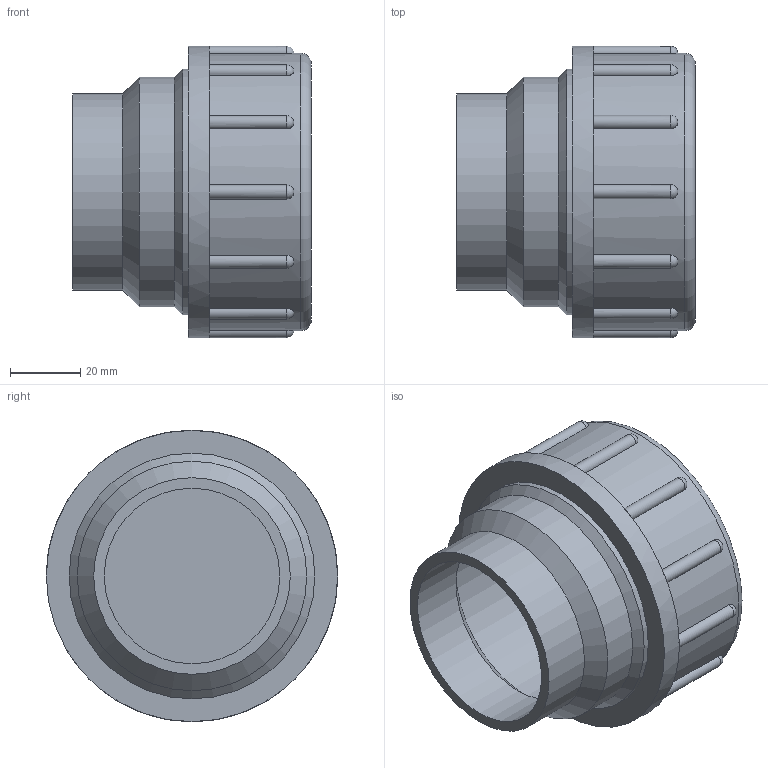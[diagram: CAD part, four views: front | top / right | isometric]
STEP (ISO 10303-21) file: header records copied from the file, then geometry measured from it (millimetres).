
FILE_DESCRIPTION(/* description */ (''),/* implementation_level */ '2;1');
FILE_NAME(/* name */ 'Z:\Geberit\Export\NewStep\363750.stp',/* time_stamp */ '2014-04-01T23:06:05+02:00',/* author */ ('Marco'),/* organization */ (''),/* preprocessor_version */ 'ST-DEVELOPER v15.2',/* originating_system */ 'Autodesk Inventor 2014',/* authorisation */ '');
FILE_SCHEMA (('AUTOMOTIVE_DESIGN { 1 0 10303 214 3 1 1 }'));
Length unit declared in the file: millimetre
Products named in the file (3): 363784; 363785; 363750
Bounding box: 68 x 83 x 83 mm (x, y, z)
Volume: 108643.5 mm3; surface area: 47019.5 mm2
Topology: 2 solids, 2 shells, 55 faces, 152 edges, 89 vertices
Faces by surface type: cylinder 21, plane 16, sphere 12, cone 5, torus 1
Full cylindrical faces by diameter (mm): 50 x1, 56 x1, 56.8 x1, 65.4 x2, 70 x2, 79 x1, 83 x1
Entity records: 1947 total; most frequent: CARTESIAN_POINT 538, DIRECTION 298, ORIENTED_EDGE 250, AXIS2_PLACEMENT_3D 137, EDGE_CURVE 125, VERTEX_POINT 89, CIRCLE 77, EDGE_LOOP 72
